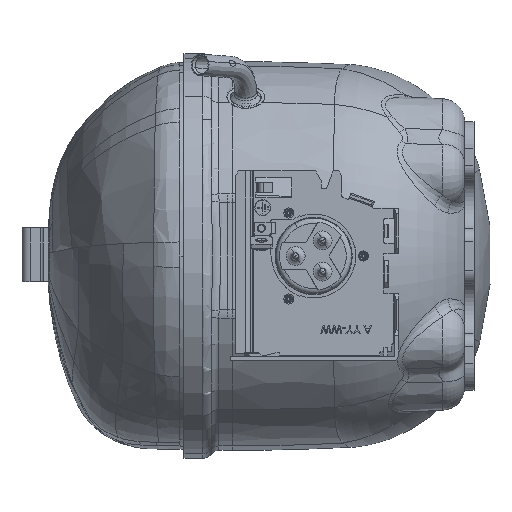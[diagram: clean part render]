
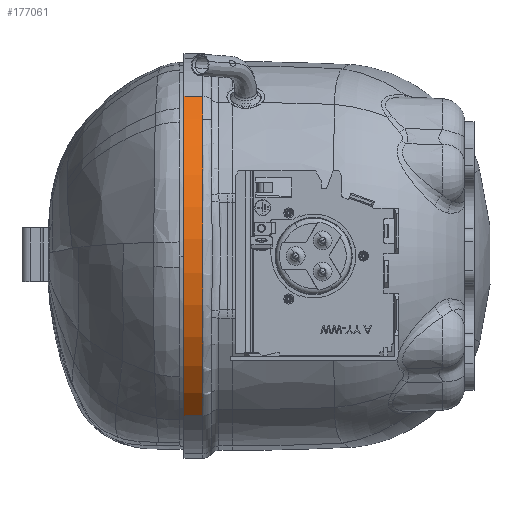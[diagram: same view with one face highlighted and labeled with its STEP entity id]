
A CAD part, left-side view. The second image highlights one B-rep face of the part: STEP entity #177061.
In plain terms, the highlighted cylindrical face has radius 76.5 mm (diameter 153 mm), a partial arc.
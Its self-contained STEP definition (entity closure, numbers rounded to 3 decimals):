
#32668=DIRECTION('',(0.,0.,1.));
#32669=VECTOR('',#32668,7.);
#32670=CARTESIAN_POINT('',(60.323,59.468,-7.));
#32671=LINE('',#32670,#32669);
#32681=DIRECTION('',(0.,0.,1.));
#32682=VECTOR('',#32681,7.);
#32683=CARTESIAN_POINT('',(60.323,-59.468,-7.));
#32684=LINE('',#32683,#32682);
#32685=CARTESIAN_POINT('',(12.2,0.,-7.));
#32686=DIRECTION('',(0.,0.,1.));
#32687=DIRECTION('',(0.629,-0.777,0.));
#32688=AXIS2_PLACEMENT_3D('',#32685,#32686,#32687);
#32732=CARTESIAN_POINT('',(12.2,0.,0.));
#32733=DIRECTION('',(0.,0.,1.));
#32734=DIRECTION('',(0.629,-0.777,0.));
#32735=AXIS2_PLACEMENT_3D('',#32732,#32733,#32734);
#50406=CARTESIAN_POINT('',(60.323,-59.468,-7.));
#50407=VERTEX_POINT('',#50406);
#50408=CARTESIAN_POINT('',(60.323,-59.468,0.));
#50409=VERTEX_POINT('',#50408);
#50414=CARTESIAN_POINT('',(60.323,59.468,-7.));
#50415=VERTEX_POINT('',#50414);
#50416=CARTESIAN_POINT('',(60.323,59.468,0.));
#50417=VERTEX_POINT('',#50416);
#177048=CARTESIAN_POINT('',(12.2,0.,-19.));
#177049=DIRECTION('',(0.,0.,1.));
#177050=DIRECTION('',(-0.629,0.777,0.));
#177051=AXIS2_PLACEMENT_3D('',#177048,#177049,#177050);
#177052=CYLINDRICAL_SURFACE('',#177051,76.5);
#177054=ORIENTED_EDGE('',*,*,#177053,.T.);
#177056=ORIENTED_EDGE('',*,*,#177055,.T.);
#177057=ORIENTED_EDGE('',*,*,#177039,.F.);
#177058=ORIENTED_EDGE('',*,*,#175990,.F.);
#177059=EDGE_LOOP('',(#177054,#177056,#177057,#177058));
#177060=FACE_OUTER_BOUND('',#177059,.F.);
#32689=CIRCLE('',#32688,76.5);
#32736=CIRCLE('',#32735,76.5);
#175990=EDGE_CURVE('',#50407,#50415,#32689,.T.);
#177039=EDGE_CURVE('',#50415,#50417,#32671,.T.);
#177053=EDGE_CURVE('',#50407,#50409,#32684,.T.);
#177055=EDGE_CURVE('',#50409,#50417,#32736,.T.);
#177061=ADVANCED_FACE('',(#177060),#177052,.T.);
